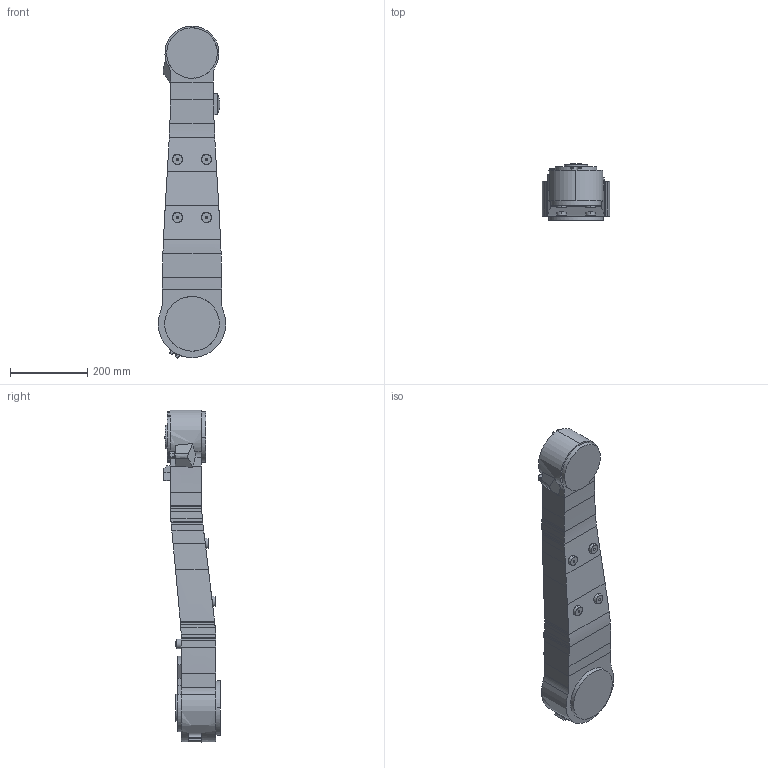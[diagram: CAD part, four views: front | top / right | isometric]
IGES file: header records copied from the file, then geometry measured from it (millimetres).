
Start section: SolidWorks IGES file using analytic representation for surfaces
Global section: file name: C:\Holley\Robot\IRB1600\CAD model\IRB1600_X-145_SW_IRC5_rev02\IRB1600_X-145_SW\IRB1600_X-145_IRC5_rev1_LINK2.IGS; native system: SolidWorks 2020; preprocessor: SolidWorks 2020; author: CNHOCHE3; date: 211129.144658; units: millimetre
Bounding box: 174.46 x 146 x 858.26 mm (x, y, z)
Volume: 10467912.6 mm3; surface area: 422574.5 mm2
Topology: 2 solids, 2 shells, 237 faces, 634 edges, 414 vertices
Faces by surface type: bspline 124, plane 67, revolution 46
